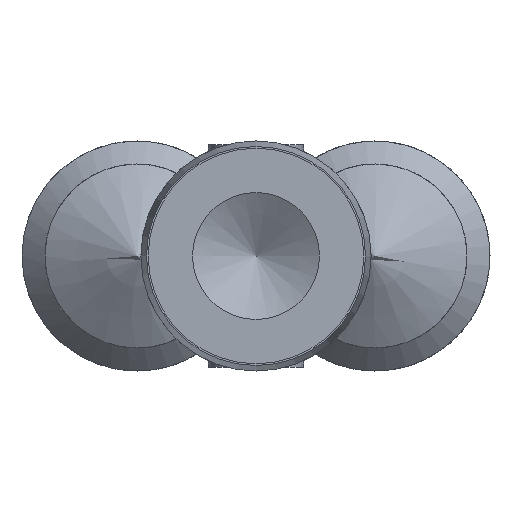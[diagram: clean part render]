
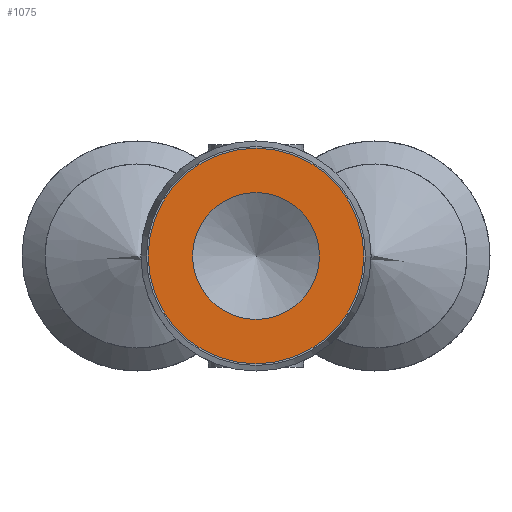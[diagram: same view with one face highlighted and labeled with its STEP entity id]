
A CAD part, left-side view. The second image highlights one B-rep face of the part: STEP entity #1075.
In plain terms, the highlighted planar face has unit normal (-1, 0, 0).
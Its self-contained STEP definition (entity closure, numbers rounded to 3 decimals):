
#147=CARTESIAN_POINT('',(-22.0,-4.0,0.));
#148=VERTEX_POINT('',#147);
#149=CARTESIAN_POINT('',(-22.0,0.0,0.0));
#150=DIRECTION('',(1.0,0.0,0.0));
#151=DIRECTION('',(0.0,1.0,0.0));
#152=AXIS2_PLACEMENT_3D('',#149,#150,#151);
#153=CIRCLE('',#152,4.0);
#154=EDGE_CURVE('',#148,#148,#153,.T.);
#1056=CARTESIAN_POINT('',(-22.0,3.4,0.0));
#1057=DIRECTION('',(-1.0,0.0,0.0));
#1058=DIRECTION('',(0.0,0.0,1.0));
#1059=AXIS2_PLACEMENT_3D('',#1056,#1057,#1058);
#1060=PLANE('',#1059);
#1061=CARTESIAN_POINT('',(-22.0,6.8,0.0));
#1062=VERTEX_POINT('',#1061);
#1063=CARTESIAN_POINT('',(-22.0,0.0,0.0));
#1064=DIRECTION('',(1.0,0.0,0.0));
#1065=DIRECTION('',(0.0,1.0,0.0));
#1066=AXIS2_PLACEMENT_3D('',#1063,#1064,#1065);
#1067=CIRCLE('',#1066,6.8);
#1068=EDGE_CURVE('',#1062,#1062,#1067,.T.);
#1069=ORIENTED_EDGE('',*,*,#1068,.F.);
#1070=EDGE_LOOP('',(#1069));
#1071=FACE_OUTER_BOUND('',#1070,.T.);
#1072=ORIENTED_EDGE('',*,*,#154,.T.);
#1073=EDGE_LOOP('',(#1072));
#1074=FACE_BOUND('',#1073,.T.);
#1075=ADVANCED_FACE('',(#1071,#1074),#1060,.T.);
